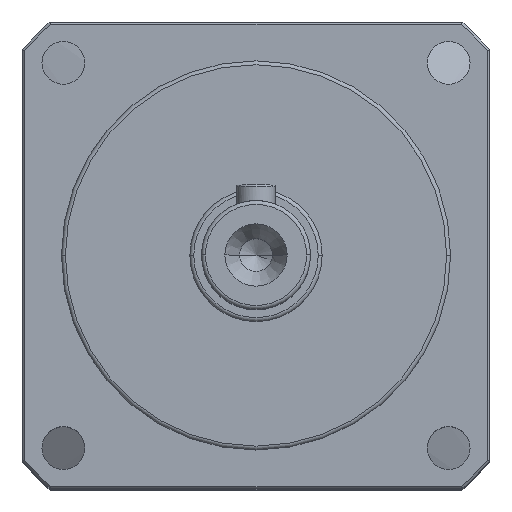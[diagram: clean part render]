
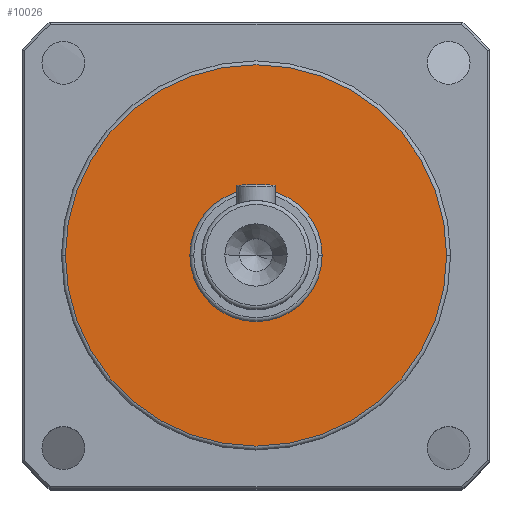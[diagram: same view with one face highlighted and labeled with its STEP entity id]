
A CAD part, top view. The second image highlights one B-rep face of the part: STEP entity #10026.
In plain terms, the highlighted planar face has unit normal (0, 0, 1).
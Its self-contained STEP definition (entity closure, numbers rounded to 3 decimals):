
#437 = ORIENTED_EDGE ( 'NONE', *, *, #9570, .T. ) ;
#781 = EDGE_LOOP ( 'NONE', ( #7752, #437 ) ) ;
#857 = DIRECTION ( 'NONE',  ( 0., 0., 1. ) ) ;
#1521 = DIRECTION ( 'NONE',  ( 1., 0., 0. ) ) ;
#1942 = CARTESIAN_POINT ( 'NONE',  ( -16.731, 3.116, -99.189 ) ) ;
#2146 = CARTESIAN_POINT ( 'NONE',  ( 7.769, 3.116, -99.189 ) ) ;
#2217 = DIRECTION ( 'NONE',  ( 1., 0., 0. ) ) ;
#2378 = DIRECTION ( 'NONE',  ( 0., 0., 1. ) ) ;
#2381 = AXIS2_PLACEMENT_3D ( 'NONE', #2146, #6442, #10422 ) ;
#3169 = DIRECTION ( 'NONE',  ( 1., 0., 0. ) ) ;
#3657 = CARTESIAN_POINT ( 'NONE',  ( 16.269, 3.116, -99.189 ) ) ;
#3935 = CIRCLE ( 'NONE', #4782, 8.5 ) ;
#4240 = FACE_OUTER_BOUND ( 'NONE', #781, .T. ) ;
#4453 = VERTEX_POINT ( 'NONE', #5174 ) ;
#4782 = AXIS2_PLACEMENT_3D ( 'NONE', #6628, #8969, #4881 ) ;
#4853 = AXIS2_PLACEMENT_3D ( 'NONE', #7158, #2378, #1521 ) ;
#4881 = DIRECTION ( 'NONE',  ( 1., 0., 0. ) ) ;
#4987 = CIRCLE ( 'NONE', #9527, 24.5 ) ;
#5174 = CARTESIAN_POINT ( 'NONE',  ( 32.269, 3.116, -99.189 ) ) ;
#5277 = EDGE_CURVE ( 'NONE', #6414, #7812, #7756, .T. ) ;
#5620 = CARTESIAN_POINT ( 'NONE',  ( 7.769, 3.116, -99.189 ) ) ;
#6359 = DIRECTION ( 'NONE',  ( 0., 0., 1. ) ) ;
#6414 = VERTEX_POINT ( 'NONE', #9319 ) ;
#6442 = DIRECTION ( 'NONE',  ( 0., 0., 1. ) ) ;
#6451 = AXIS2_PLACEMENT_3D ( 'NONE', #8252, #857, #3169 ) ;
#6628 = CARTESIAN_POINT ( 'NONE',  ( 7.769, 3.116, -99.189 ) ) ;
#6713 = ORIENTED_EDGE ( 'NONE', *, *, #8725, .F. ) ;
#7158 = CARTESIAN_POINT ( 'NONE',  ( 7.769, 3.116, -99.189 ) ) ;
#7301 = FACE_BOUND ( 'NONE', #7614, .T. ) ;
#7330 = VERTEX_POINT ( 'NONE', #1942 ) ;
#7352 = PLANE ( 'NONE',  #6451 ) ;
#7368 = EDGE_CURVE ( 'NONE', #4453, #7330, #9199, .T. ) ;
#7535 = ORIENTED_EDGE ( 'NONE', *, *, #5277, .F. ) ;
#7614 = EDGE_LOOP ( 'NONE', ( #6713, #7535 ) ) ;
#7752 = ORIENTED_EDGE ( 'NONE', *, *, #7368, .T. ) ;
#7756 = CIRCLE ( 'NONE', #4853, 8.5 ) ;
#7812 = VERTEX_POINT ( 'NONE', #3657 ) ;
#8252 = CARTESIAN_POINT ( 'NONE',  ( 7.769, 3.116, -99.189 ) ) ;
#8725 = EDGE_CURVE ( 'NONE', #7812, #6414, #3935, .T. ) ;
#8969 = DIRECTION ( 'NONE',  ( 0., 0., 1. ) ) ;
#9199 = CIRCLE ( 'NONE', #2381, 24.5 ) ;
#9319 = CARTESIAN_POINT ( 'NONE',  ( -0.731, 3.116, -99.189 ) ) ;
#9527 = AXIS2_PLACEMENT_3D ( 'NONE', #5620, #6359, #2217 ) ;
#9570 = EDGE_CURVE ( 'NONE', #7330, #4453, #4987, .T. ) ;
#10026 = ADVANCED_FACE ( 'NONE', ( #7301, #4240 ), #7352, .T. ) ;
#10422 = DIRECTION ( 'NONE',  ( 1., 0., 0. ) ) ;
